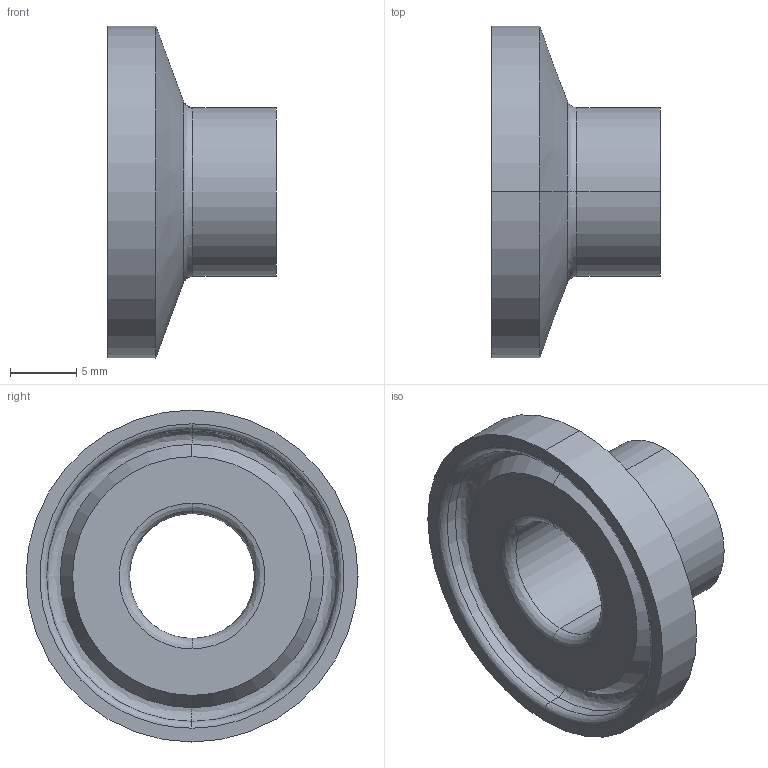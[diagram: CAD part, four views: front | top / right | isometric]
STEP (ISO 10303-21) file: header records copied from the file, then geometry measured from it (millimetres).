
FILE_DESCRIPTION (( 'STEP AP214' ), '1' );
FILE_NAME ('TEG2CS6L.5.STEP', '2016-05-22T11:51:56', ( 'eran' ), ( '' ), 'SwSTEP 2.0', 'SolidWorks 2016', '' );
FILE_SCHEMA (( 'AUTOMOTIVE_DESIGN' ));
Length unit declared in the file: millimetre
Products named in the file (1): TEG2CS6L.5
Bounding box: 12.7 x 24.99 x 24.99 mm (x, y, z)
Volume: 2044.3 mm3; surface area: 1911.7 mm2
Topology: 1 solids, 1 shells, 23 faces, 46 edges, 26 vertices
Faces by surface type: bspline 8, cylinder 8, cone 4, plane 3
Entity records: 724 total; most frequent: CARTESIAN_POINT 228, DIRECTION 104, ORIENTED_EDGE 92, EDGE_CURVE 46, AXIS2_PLACEMENT_3D 46, CIRCLE 30, VERTEX_POINT 26, EDGE_LOOP 26
